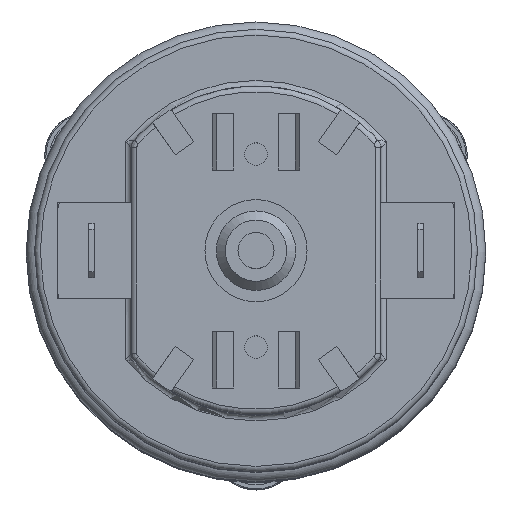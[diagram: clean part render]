
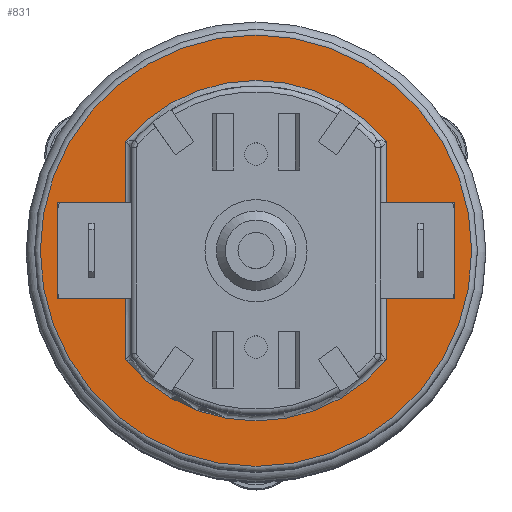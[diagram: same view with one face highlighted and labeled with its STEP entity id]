
A CAD part, top view. The second image highlights one B-rep face of the part: STEP entity #831.
In plain terms, the highlighted planar face has unit normal (0, 0, 1).
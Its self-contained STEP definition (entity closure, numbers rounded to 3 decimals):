
#297=FACE_BOUND('',#1827,.T.);
#831=ADVANCED_FACE('',(#297,#1410),#1155,.T.);
#1155=PLANE('',#6780);
#1410=FACE_OUTER_BOUND('',#1828,.T.);
#1827=EDGE_LOOP('',(#3120,#3121,#3122,#3123,#3124,#3125,#3126,#3127,#3128,
#3129,#3130,#3131));
#1828=EDGE_LOOP('',(#3132));
#2312=CIRCLE('',#6777,14.996);
#2313=CIRCLE('',#6778,15.);
#2314=CIRCLE('',#6779,19.);
#3120=ORIENTED_EDGE('',*,*,#5157,.T.);
#3121=ORIENTED_EDGE('',*,*,#5158,.T.);
#3122=ORIENTED_EDGE('',*,*,#5159,.T.);
#3123=ORIENTED_EDGE('',*,*,#5160,.F.);
#3124=ORIENTED_EDGE('',*,*,#5161,.F.);
#3125=ORIENTED_EDGE('',*,*,#5162,.T.);
#3126=ORIENTED_EDGE('',*,*,#5163,.T.);
#3127=ORIENTED_EDGE('',*,*,#5164,.T.);
#3128=ORIENTED_EDGE('',*,*,#5165,.F.);
#3129=ORIENTED_EDGE('',*,*,#5166,.T.);
#3130=ORIENTED_EDGE('',*,*,#5167,.T.);
#3131=ORIENTED_EDGE('',*,*,#5168,.T.);
#3132=ORIENTED_EDGE('',*,*,#5169,.T.);
#4473=VERTEX_POINT('',#9926);
#4474=VERTEX_POINT('',#9927);
#4475=VERTEX_POINT('',#9929);
#4476=VERTEX_POINT('',#9931);
#4477=VERTEX_POINT('',#9933);
#4478=VERTEX_POINT('',#9935);
#4479=VERTEX_POINT('',#9937);
#4480=VERTEX_POINT('',#9939);
#4481=VERTEX_POINT('',#9941);
#4482=VERTEX_POINT('',#9943);
#4483=VERTEX_POINT('',#9945);
#4484=VERTEX_POINT('',#9947);
#4485=VERTEX_POINT('',#9950);
#5157=EDGE_CURVE('',#4473,#4474,#2312,.T.);
#5158=EDGE_CURVE('',#4474,#4475,#5832,.T.);
#5159=EDGE_CURVE('',#4475,#4476,#5833,.T.);
#5160=EDGE_CURVE('',#4477,#4476,#5834,.T.);
#5161=EDGE_CURVE('',#4478,#4477,#5835,.T.);
#5162=EDGE_CURVE('',#4478,#4479,#5836,.T.);
#5163=EDGE_CURVE('',#4479,#4480,#2313,.T.);
#5164=EDGE_CURVE('',#4480,#4481,#5837,.T.);
#5165=EDGE_CURVE('',#4482,#4481,#5838,.T.);
#5166=EDGE_CURVE('',#4482,#4483,#5839,.T.);
#5167=EDGE_CURVE('',#4483,#4484,#5840,.T.);
#5168=EDGE_CURVE('',#4484,#4473,#5841,.T.);
#5169=EDGE_CURVE('',#4485,#4485,#2314,.T.);
#5832=LINE('',#9928,#6245);
#5833=LINE('',#9930,#6246);
#5834=LINE('',#9932,#6247);
#5835=LINE('',#9934,#6248);
#5836=LINE('',#9936,#6249);
#5837=LINE('',#9940,#6250);
#5838=LINE('',#9942,#6251);
#5839=LINE('',#9944,#6252);
#5840=LINE('',#9946,#6253);
#5841=LINE('',#9948,#6254);
#6245=VECTOR('',#7951,1.);
#6246=VECTOR('',#7952,1.);
#6247=VECTOR('',#7953,1.);
#6248=VECTOR('',#7954,1.);
#6249=VECTOR('',#7955,1.);
#6250=VECTOR('',#7958,1.);
#6251=VECTOR('',#7959,1.);
#6252=VECTOR('',#7960,1.);
#6253=VECTOR('',#7961,1.);
#6254=VECTOR('',#7962,1.);
#6777=AXIS2_PLACEMENT_3D('',#9925,#7949,#7950);
#6778=AXIS2_PLACEMENT_3D('',#9938,#7956,#7957);
#6779=AXIS2_PLACEMENT_3D('',#9949,#7963,#7964);
#6780=AXIS2_PLACEMENT_3D('',#9951,#7965,#7966);
#7949=DIRECTION('',(0.,0.,-1.));
#7950=DIRECTION('',(0.,-1.,0.));
#7951=DIRECTION('',(0.,1.,0.));
#7952=DIRECTION('',(-1.,0.,0.));
#7953=DIRECTION('',(0.,-1.,0.));
#7954=DIRECTION('',(-1.,0.,0.));
#7955=DIRECTION('',(0.,1.,0.));
#7956=DIRECTION('',(0.,0.,-1.));
#7957=DIRECTION('',(0.,-1.,0.));
#7958=DIRECTION('',(0.,-1.,0.));
#7959=DIRECTION('',(-1.,0.,0.));
#7960=DIRECTION('',(0.,-1.,0.));
#7961=DIRECTION('',(-1.,0.,0.));
#7962=DIRECTION('',(0.,-1.,0.));
#7963=DIRECTION('',(0.,0.,1.));
#7964=DIRECTION('',(0.,-1.,0.));
#7965=DIRECTION('',(0.,0.,1.));
#7966=DIRECTION('',(0.,-1.,0.));
#9925=CARTESIAN_POINT('',(19.5,19.5,86.2));
#9926=CARTESIAN_POINT('',(31.,9.876,86.2));
#9927=CARTESIAN_POINT('',(8.,9.876,86.2));
#9928=CARTESIAN_POINT('',(8.,15.25,86.2));
#9929=CARTESIAN_POINT('',(8.,15.25,86.2));
#9930=CARTESIAN_POINT('',(8.5,15.25,86.2));
#9931=CARTESIAN_POINT('',(2.,15.25,86.2));
#9932=CARTESIAN_POINT('',(2.,23.75,86.2));
#9933=CARTESIAN_POINT('',(2.,23.75,86.2));
#9934=CARTESIAN_POINT('',(8.5,23.75,86.2));
#9935=CARTESIAN_POINT('',(8.,23.75,86.2));
#9936=CARTESIAN_POINT('',(8.,28.947,86.2));
#9937=CARTESIAN_POINT('',(8.,29.131,86.2));
#9938=CARTESIAN_POINT('',(19.5,19.5,86.2));
#9939=CARTESIAN_POINT('',(31.,29.131,86.2));
#9940=CARTESIAN_POINT('',(31.,19.5,86.2));
#9941=CARTESIAN_POINT('',(31.,23.75,86.2));
#9942=CARTESIAN_POINT('',(37.,23.75,86.2));
#9943=CARTESIAN_POINT('',(37.,23.75,86.2));
#9944=CARTESIAN_POINT('',(37.,23.75,86.2));
#9945=CARTESIAN_POINT('',(37.,15.25,86.2));
#9946=CARTESIAN_POINT('',(37.,15.25,86.2));
#9947=CARTESIAN_POINT('',(31.,15.25,86.2));
#9948=CARTESIAN_POINT('',(31.,19.5,86.2));
#9949=CARTESIAN_POINT('',(19.5,19.5,86.2));
#9950=CARTESIAN_POINT('',(19.5,0.5,86.2));
#9951=CARTESIAN_POINT('',(19.5,19.5,86.2));
